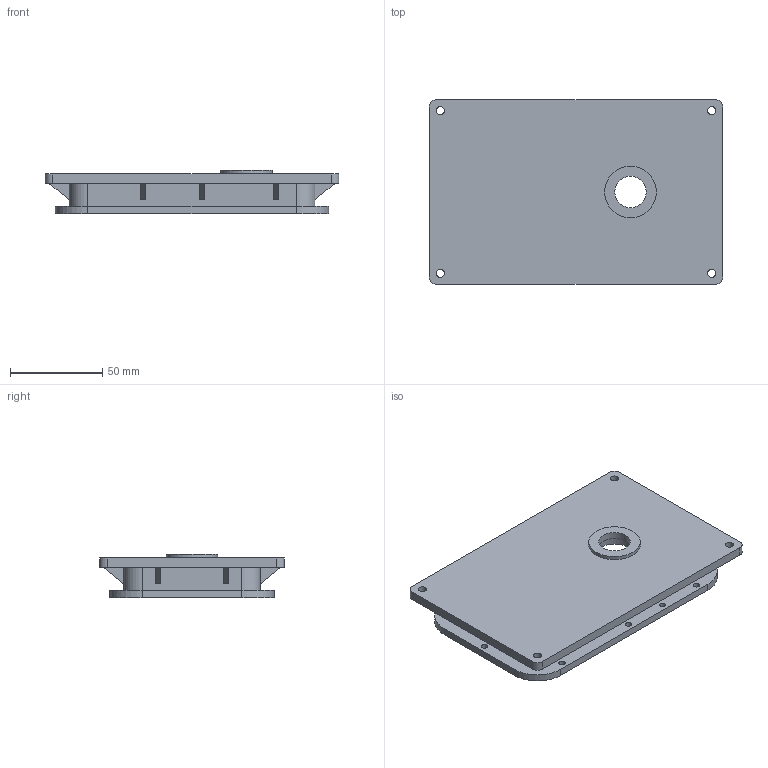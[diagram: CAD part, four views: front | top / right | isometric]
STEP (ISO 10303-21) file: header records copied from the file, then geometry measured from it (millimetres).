
FILE_DESCRIPTION(('Open CASCADE Model'),'2;1');
FILE_NAME('02_Housing_Rear','2026-10-20T19:44:35',('Author'),( 'Open CASCADE'),'Open CASCADE STEP processor 8.0','build123d', 'Unknown');
FILE_SCHEMA(('AUTOMOTIVE_DESIGN { 1 0 10303 214 1 1 1 1 }'));
Length unit declared in the file: millimetre
Products named in the file (1): 02_Housing_Rear
Bounding box: 159 x 100 x 23.5 mm (x, y, z)
Volume: 124676.1 mm3; surface area: 55016.9 mm2
Topology: 1 solids, 1 shells, 94 faces, 249 edges, 166 vertices
Faces by surface type: plane 57, cylinder 37
Full cylindrical faces by diameter (mm): 3 x2, 3.4 x8, 4.5 x4, 14 x2, 17 x1, 19 x2, 21 x1, 28 x1
Entity records: 6261 total; most frequent: CARTESIAN_POINT 1172, DIRECTION 947, LINE 555, VECTOR 555, ORIENTED_EDGE 498, PCURVE 498, DEFINITIONAL_REPRESENTATION 498, EDGE_CURVE 249
